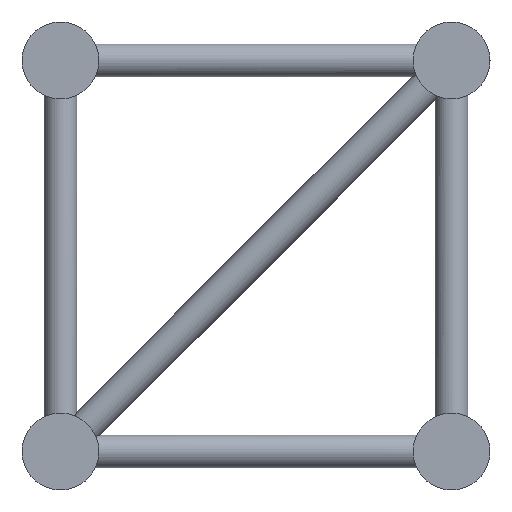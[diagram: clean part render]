
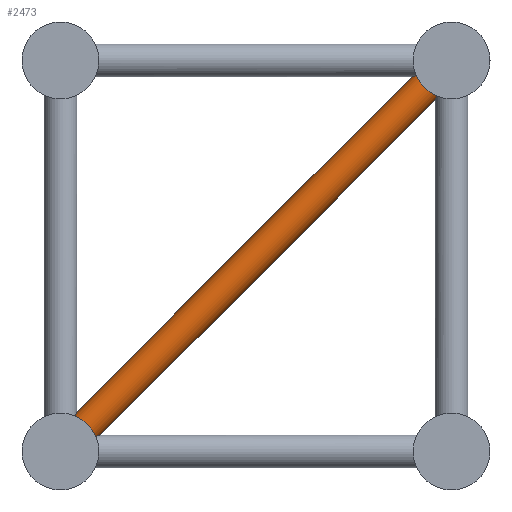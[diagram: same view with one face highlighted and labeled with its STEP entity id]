
A CAD part, left-side view. The second image highlights one B-rep face of the part: STEP entity #2473.
In plain terms, the highlighted cylindrical face has radius 12.5 mm (diameter 25 mm), a full revolution.
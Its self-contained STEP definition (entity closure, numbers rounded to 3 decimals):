
#102=ELLIPSE('',#2654,17.678,12.5);
#103=ELLIPSE('',#2655,17.678,12.5);
#104=ELLIPSE('',#2666,32.664,12.5);
#105=ELLIPSE('',#2669,32.664,12.5);
#106=ELLIPSE('',#2672,32.664,12.5);
#107=ELLIPSE('',#2674,17.678,12.5);
#108=ELLIPSE('',#2675,32.664,12.5);
#109=ELLIPSE('',#2676,17.678,12.5);
#140=B_SPLINE_CURVE_WITH_KNOTS('',3,(#3896,#3897,#3898,#3899,#3900,#3901),
 .UNSPECIFIED.,.F.,.F.,(4,2,4),(1.913,1.922,1.93),
 .UNSPECIFIED.);
#141=B_SPLINE_CURVE_WITH_KNOTS('',3,(#3905,#3906,#3907,#3908,#3909,#3910),
 .UNSPECIFIED.,.F.,.F.,(4,2,4),(5.757,5.766,5.774),
 .UNSPECIFIED.);
#223=CYLINDRICAL_SURFACE('',#2665,12.5);
#303=FACE_BOUND('',#608,.T.);
#422=FACE_OUTER_BOUND('',#607,.T.);
#607=EDGE_LOOP('',(#1602,#1603,#1604,#1605,#1606,#1607));
#608=EDGE_LOOP('',(#1608,#1609,#1610,#1611,#1612,#1613,#1614,#1615,#1616,
#1617,#1618,#1619));
#884=CIRCLE('',#2663,12.5);
#885=CIRCLE('',#2664,12.5);
#886=CIRCLE('',#2667,12.5);
#887=CIRCLE('',#2668,12.5);
#888=CIRCLE('',#2670,12.5);
#889=CIRCLE('',#2671,12.5);
#890=CIRCLE('',#2673,12.5);
#891=CIRCLE('',#2677,12.5);
#1033=VERTEX_POINT('',#3894);
#1034=VERTEX_POINT('',#3895);
#1035=VERTEX_POINT('',#3902);
#1036=VERTEX_POINT('',#3904);
#1056=VERTEX_POINT('',#4098);
#1057=VERTEX_POINT('',#4100);
#1058=VERTEX_POINT('',#4102);
#1059=VERTEX_POINT('',#4104);
#1060=VERTEX_POINT('',#4116);
#1061=VERTEX_POINT('',#4117);
#1062=VERTEX_POINT('',#4119);
#1063=VERTEX_POINT('',#4121);
#1064=VERTEX_POINT('',#4123);
#1065=VERTEX_POINT('',#4125);
#1066=VERTEX_POINT('',#4129);
#1067=VERTEX_POINT('',#4131);
#1068=VERTEX_POINT('',#4133);
#1069=VERTEX_POINT('',#4135);
#1241=EDGE_CURVE('',#1033,#1034,#140,.T.);
#1243=EDGE_CURVE('',#1036,#1035,#141,.T.);
#1268=EDGE_CURVE('',#1056,#1057,#102,.T.);
#1270=EDGE_CURVE('',#1058,#1059,#103,.T.);
#1273=EDGE_CURVE('',#1033,#1058,#884,.T.);
#1274=EDGE_CURVE('',#1057,#1035,#885,.T.);
#1275=EDGE_CURVE('',#1060,#1061,#104,.T.);
#1276=EDGE_CURVE('',#1062,#1060,#886,.T.);
#1277=EDGE_CURVE('',#1063,#1062,#887,.T.);
#1278=EDGE_CURVE('',#1064,#1063,#105,.T.);
#1279=EDGE_CURVE('',#1065,#1064,#888,.T.);
#1280=EDGE_CURVE('',#1061,#1065,#889,.T.);
#1281=EDGE_CURVE('',#1059,#1056,#106,.T.);
#1282=EDGE_CURVE('',#1066,#1034,#890,.T.);
#1283=EDGE_CURVE('',#1067,#1066,#107,.T.);
#1284=EDGE_CURVE('',#1068,#1067,#108,.T.);
#1285=EDGE_CURVE('',#1069,#1068,#109,.T.);
#1286=EDGE_CURVE('',#1036,#1069,#891,.T.);
#1602=ORIENTED_EDGE('',*,*,#1275,.F.);
#1603=ORIENTED_EDGE('',*,*,#1276,.F.);
#1604=ORIENTED_EDGE('',*,*,#1277,.F.);
#1605=ORIENTED_EDGE('',*,*,#1278,.F.);
#1606=ORIENTED_EDGE('',*,*,#1279,.F.);
#1607=ORIENTED_EDGE('',*,*,#1280,.F.);
#1608=ORIENTED_EDGE('',*,*,#1243,.T.);
#1609=ORIENTED_EDGE('',*,*,#1274,.F.);
#1610=ORIENTED_EDGE('',*,*,#1268,.F.);
#1611=ORIENTED_EDGE('',*,*,#1281,.F.);
#1612=ORIENTED_EDGE('',*,*,#1270,.F.);
#1613=ORIENTED_EDGE('',*,*,#1273,.F.);
#1614=ORIENTED_EDGE('',*,*,#1241,.T.);
#1615=ORIENTED_EDGE('',*,*,#1282,.F.);
#1616=ORIENTED_EDGE('',*,*,#1283,.F.);
#1617=ORIENTED_EDGE('',*,*,#1284,.F.);
#1618=ORIENTED_EDGE('',*,*,#1285,.F.);
#1619=ORIENTED_EDGE('',*,*,#1286,.F.);
#2473=ADVANCED_FACE('',(#422,#303),#223,.T.);
#2654=AXIS2_PLACEMENT_3D('',#4101,#3041,#3042);
#2655=AXIS2_PLACEMENT_3D('',#4105,#3044,#3045);
#2663=AXIS2_PLACEMENT_3D('',#4113,#3060,#3061);
#2664=AXIS2_PLACEMENT_3D('',#4114,#3062,#3063);
#2665=AXIS2_PLACEMENT_3D('',#4115,#3064,#3065);
#2666=AXIS2_PLACEMENT_3D('',#4118,#3066,#3067);
#2667=AXIS2_PLACEMENT_3D('',#4120,#3068,#3069);
#2668=AXIS2_PLACEMENT_3D('',#4122,#3070,#3071);
#2669=AXIS2_PLACEMENT_3D('',#4124,#3072,#3073);
#2670=AXIS2_PLACEMENT_3D('',#4126,#3074,#3075);
#2671=AXIS2_PLACEMENT_3D('',#4127,#3076,#3077);
#2672=AXIS2_PLACEMENT_3D('',#4128,#3078,#3079);
#2673=AXIS2_PLACEMENT_3D('',#4130,#3080,#3081);
#2674=AXIS2_PLACEMENT_3D('',#4132,#3082,#3083);
#2675=AXIS2_PLACEMENT_3D('',#4134,#3084,#3085);
#2676=AXIS2_PLACEMENT_3D('',#4136,#3086,#3087);
#2677=AXIS2_PLACEMENT_3D('',#4137,#3088,#3089);
#3041=DIRECTION('center_axis',(0.,0.,
-1.));
#3042=DIRECTION('ref_axis',(0.,1.,0.));
#3044=DIRECTION('center_axis',(0.,0.,
-1.));
#3045=DIRECTION('ref_axis',(0.,1.,0.));
#3060=DIRECTION('center_axis',(0.,-0.707,
0.707));
#3061=DIRECTION('ref_axis',(0.,0.707,0.707));
#3062=DIRECTION('center_axis',(0.,-0.707,
0.707));
#3063=DIRECTION('ref_axis',(0.,0.707,0.707));
#3064=DIRECTION('center_axis',(0.,-0.707,
0.707));
#3065=DIRECTION('ref_axis',(0.,0.707,0.707));
#3066=DIRECTION('center_axis',(0.,-0.383,-0.924));
#3067=DIRECTION('ref_axis',(0.,0.924,-0.383));
#3068=DIRECTION('center_axis',(0.,0.707,-0.707));
#3069=DIRECTION('ref_axis',(0.,0.707,0.707));
#3070=DIRECTION('center_axis',(0.,0.707,-0.707));
#3071=DIRECTION('ref_axis',(0.,0.707,0.707));
#3072=DIRECTION('center_axis',(0.,0.924,0.383));
#3073=DIRECTION('ref_axis',(0.,-0.383,0.924));
#3074=DIRECTION('center_axis',(0.,0.707,-0.707));
#3075=DIRECTION('ref_axis',(0.,0.707,0.707));
#3076=DIRECTION('center_axis',(0.,0.707,-0.707));
#3077=DIRECTION('ref_axis',(0.,0.707,0.707));
#3078=DIRECTION('center_axis',(0.,-0.924,
-0.383));
#3079=DIRECTION('ref_axis',(0.,-0.383,0.924));
#3080=DIRECTION('center_axis',(0.,-0.707,
0.707));
#3081=DIRECTION('ref_axis',(0.,0.707,0.707));
#3082=DIRECTION('center_axis',(0.,1.,0.));
#3083=DIRECTION('ref_axis',(0.,0.,1.));
#3084=DIRECTION('center_axis',(0.,0.383,0.924));
#3085=DIRECTION('ref_axis',(0.,0.924,-0.383));
#3086=DIRECTION('center_axis',(0.,1.,0.));
#3087=DIRECTION('ref_axis',(0.,0.,1.));
#3088=DIRECTION('center_axis',(0.,-0.707,
0.707));
#3089=DIRECTION('ref_axis',(0.,0.707,0.707));
#3894=CARTESIAN_POINT('',(80.,17.617,-17.738));
#3895=CARTESIAN_POINT('',(80.,17.738,-17.617));
#3896=CARTESIAN_POINT('Ctrl Pts',(80.,17.617,-17.738));
#3897=CARTESIAN_POINT('Ctrl Pts',(80.,17.638,-17.718));
#3898=CARTESIAN_POINT('Ctrl Pts',(80.,17.658,-17.698));
#3899=CARTESIAN_POINT('Ctrl Pts',(80.,17.698,-17.658));
#3900=CARTESIAN_POINT('Ctrl Pts',(80.,17.718,-17.638));
#3901=CARTESIAN_POINT('Ctrl Pts',(80.,17.738,-17.617));
#3902=CARTESIAN_POINT('',(105.,17.617,-17.738));
#3904=CARTESIAN_POINT('',(105.,17.738,-17.617));
#3905=CARTESIAN_POINT('Ctrl Pts',(105.,17.738,-17.617));
#3906=CARTESIAN_POINT('Ctrl Pts',(105.,17.718,-17.638));
#3907=CARTESIAN_POINT('Ctrl Pts',(105.,17.698,-17.658));
#3908=CARTESIAN_POINT('Ctrl Pts',(105.,17.658,-17.698));
#3909=CARTESIAN_POINT('Ctrl Pts',(105.,17.638,-17.718));
#3910=CARTESIAN_POINT('Ctrl Pts',(105.,17.617,-17.738));
#4098=CARTESIAN_POINT('',(99.501,10.355,-25.));
#4100=CARTESIAN_POINT('',(99.501,10.355,-25.));
#4101=CARTESIAN_POINT('Origin',(92.5,25.,-25.));
#4102=CARTESIAN_POINT('',(85.499,10.355,-25.));
#4104=CARTESIAN_POINT('',(85.499,10.355,-25.));
#4105=CARTESIAN_POINT('Origin',(92.5,25.,-25.));
#4113=CARTESIAN_POINT('Origin',(92.5,17.678,-17.678));
#4114=CARTESIAN_POINT('Origin',(92.5,17.678,-17.678));
#4115=CARTESIAN_POINT('Origin',(92.5,281.322,-281.322));
#4116=CARTESIAN_POINT('',(99.501,274.,-288.645));
#4117=CARTESIAN_POINT('',(85.499,274.,-288.645));
#4118=CARTESIAN_POINT('Origin',(92.5,299.,-299.));
#4119=CARTESIAN_POINT('',(105.,281.322,-281.322));
#4120=CARTESIAN_POINT('Origin',(92.5,281.322,-281.322));
#4121=CARTESIAN_POINT('',(99.501,288.645,-274.));
#4122=CARTESIAN_POINT('Origin',(92.5,281.322,-281.322));
#4123=CARTESIAN_POINT('',(85.499,288.645,-274.));
#4124=CARTESIAN_POINT('Origin',(92.5,299.,-299.));
#4125=CARTESIAN_POINT('',(80.,281.322,-281.322));
#4126=CARTESIAN_POINT('Origin',(92.5,281.322,-281.322));
#4127=CARTESIAN_POINT('Origin',(92.5,281.322,-281.322));
#4128=CARTESIAN_POINT('Origin',(92.5,0.,0.));
#4129=CARTESIAN_POINT('',(85.499,25.,-10.355));
#4130=CARTESIAN_POINT('Origin',(92.5,17.678,-17.678));
#4131=CARTESIAN_POINT('',(85.499,25.,-10.355));
#4132=CARTESIAN_POINT('Origin',(92.5,25.,-25.));
#4133=CARTESIAN_POINT('',(99.501,25.,-10.355));
#4134=CARTESIAN_POINT('Origin',(92.5,0.,0.));
#4135=CARTESIAN_POINT('',(99.501,25.,-10.355));
#4136=CARTESIAN_POINT('Origin',(92.5,25.,-25.));
#4137=CARTESIAN_POINT('Origin',(92.5,17.678,-17.678));
